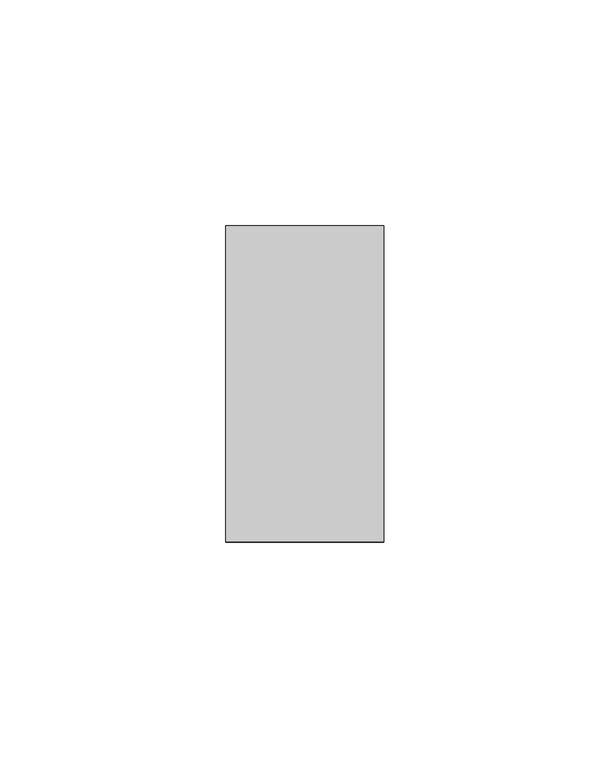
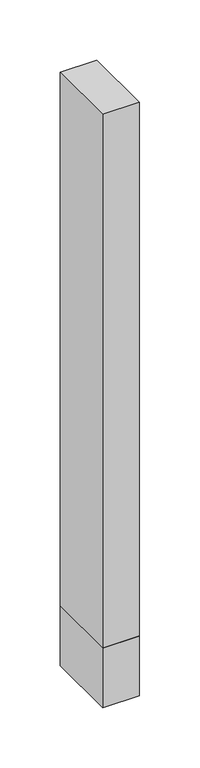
"""IFC4 building model written with IfcOpenShell, lengths in millimetres: plate geometry, 営_パーティションパネル_下部 : パーティションパネル_下部."""

from ifc_helpers import new_model, si_unit, frame, origin, origin_with_axes, place, context, project, spatial, polyline, outline, extrude, source, transform, mapped, element, save


def plate_5a323a1a(model_context):
    return source(origin(), model_context, "Body", "SweptSolid", [
        extrude(outline(polyline([(-17.4999998, -35.0), (-17.4999998, 35.0), (17.4999998, 35.0), (17.4999998, -35.0), (-17.4999998, -35.0)])), origin_with_axes(), (0.0, 0.0, 1.0), 60.0),
        extrude(outline(polyline([(-17.4999998, -35.0), (-17.4999998, 35.0), (17.4999998, 35.0), (17.4999998, -35.0), (-17.4999998, -35.0)])), frame((0.0, 0.0, 60.0), z_axis=(0.0, 0.0, 1.0), x_axis=(1.0, 0.0, 0.0)), (0.0, 0.0, 1.0), 540.0),
    ])


if __name__ == "__main__":
    model = new_model("IFC4")
    model_context = context("Model", 3, world=origin())
    ifc_project = project(units=[si_unit("LENGTHUNIT", "METRE", prefix="MILLI")], contexts=[model_context])
    site = spatial("IfcSite", under=ifc_project)
    building = spatial("IfcBuilding", under=site)
    placement = place(None, origin())
    plate_shape = plate_5a323a1a(model_context)
    element("IfcPlate", 1, ObjectType="営_パーティションパネル_下部 : パーティションパネル_下部", at=placement, inside=building, context=model_context, shape_type="MappedRepresentation", body=[
        mapped(plate_shape, transform((0.0, 0.0, 0.0), x_axis=(1.0, 0.0, 0.0), y_axis=(0.0, 1.0, 0.0), z_axis=(0.0, 0.0, 1.0))),
    ])
    save(model, "model.ifc")
